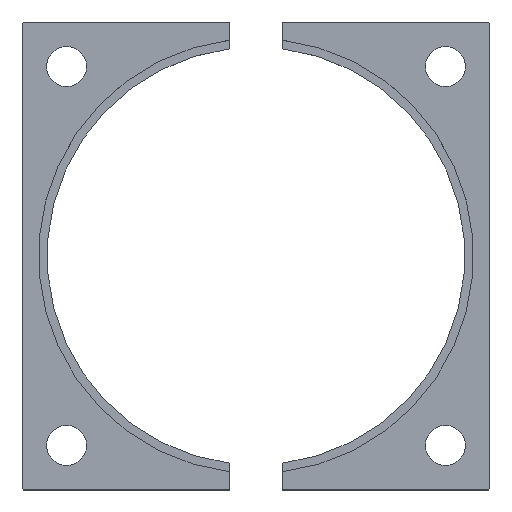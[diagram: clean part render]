
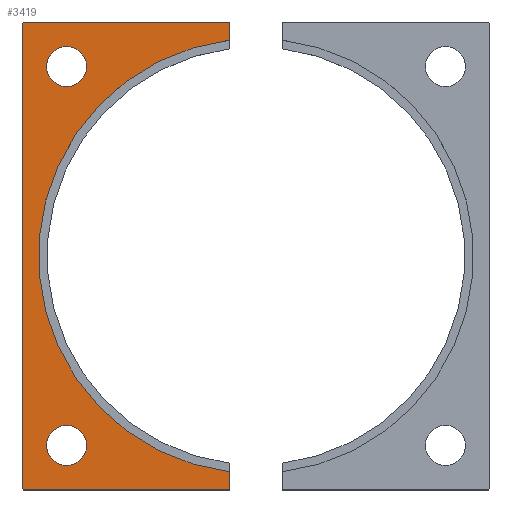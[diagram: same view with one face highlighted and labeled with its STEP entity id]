
A CAD part, top view. The second image highlights one B-rep face of the part: STEP entity #3419.
In plain terms, the highlighted planar face has unit normal (0, 0, 1).
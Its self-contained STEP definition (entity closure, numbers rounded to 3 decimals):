
#260=FACE_BOUND('',#580,.T.);
#261=FACE_BOUND('',#581,.T.);
#283=PLANE('',#3635);
#387=FACE_OUTER_BOUND('',#579,.T.);
#579=EDGE_LOOP('',(#2373,#2374,#2375,#2376,#2377,#2378,#2379,#2380));
#580=EDGE_LOOP('',(#2381));
#581=EDGE_LOOP('',(#2382));
#792=CIRCLE('',#3632,97.6);
#794=CIRCLE('',#3636,9.);
#795=CIRCLE('',#3637,9.);
#811=LINE('',#4375,#1155);
#812=LINE('',#4377,#1156);
#813=LINE('',#4379,#1157);
#814=LINE('',#4381,#1158);
#815=LINE('',#4383,#1159);
#816=LINE('',#4385,#1160);
#817=LINE('',#4386,#1161);
#1155=VECTOR('',#3775,10.);
#1156=VECTOR('',#3776,10.);
#1157=VECTOR('',#3777,10.);
#1158=VECTOR('',#3778,10.);
#1159=VECTOR('',#3779,10.);
#1160=VECTOR('',#3780,10.);
#1161=VECTOR('',#3781,10.);
#1496=VERTEX_POINT('',#4360);
#1498=VERTEX_POINT('',#4364);
#1501=VERTEX_POINT('',#4374);
#1502=VERTEX_POINT('',#4376);
#1503=VERTEX_POINT('',#4378);
#1504=VERTEX_POINT('',#4380);
#1505=VERTEX_POINT('',#4382);
#1506=VERTEX_POINT('',#4384);
#1507=VERTEX_POINT('',#4387);
#1508=VERTEX_POINT('',#4389);
#1846=EDGE_CURVE('',#1496,#1498,#792,.T.);
#1850=EDGE_CURVE('',#1501,#1498,#811,.T.);
#1851=EDGE_CURVE('',#1502,#1501,#812,.T.);
#1852=EDGE_CURVE('',#1503,#1502,#813,.T.);
#1853=EDGE_CURVE('',#1504,#1503,#814,.T.);
#1854=EDGE_CURVE('',#1505,#1504,#815,.T.);
#1855=EDGE_CURVE('',#1506,#1505,#816,.T.);
#1856=EDGE_CURVE('',#1496,#1506,#817,.T.);
#1857=EDGE_CURVE('',#1507,#1507,#794,.T.);
#1858=EDGE_CURVE('',#1508,#1508,#795,.T.);
#2373=ORIENTED_EDGE('',*,*,#1846,.T.);
#2374=ORIENTED_EDGE('',*,*,#1850,.F.);
#2375=ORIENTED_EDGE('',*,*,#1851,.F.);
#2376=ORIENTED_EDGE('',*,*,#1852,.F.);
#2377=ORIENTED_EDGE('',*,*,#1853,.F.);
#2378=ORIENTED_EDGE('',*,*,#1854,.F.);
#2379=ORIENTED_EDGE('',*,*,#1855,.F.);
#2380=ORIENTED_EDGE('',*,*,#1856,.F.);
#2381=ORIENTED_EDGE('',*,*,#1857,.T.);
#2382=ORIENTED_EDGE('',*,*,#1858,.T.);
#3419=ADVANCED_FACE('',(#387,#260,#261),#283,.T.);
#3632=AXIS2_PLACEMENT_3D('',#4366,#3765,#3766);
#3635=AXIS2_PLACEMENT_3D('',#4373,#3773,#3774);
#3636=AXIS2_PLACEMENT_3D('',#4388,#3782,#3783);
#3637=AXIS2_PLACEMENT_3D('',#4390,#3784,#3785);
#3765=DIRECTION('center_axis',(0.,0.,-1.));
#3766=DIRECTION('ref_axis',(-1.,0.,0.));
#3773=DIRECTION('center_axis',(0.,0.,1.));
#3774=DIRECTION('ref_axis',(1.,0.,0.));
#3775=DIRECTION('',(0.,-1.,0.));
#3776=DIRECTION('',(1.,0.,0.));
#3777=DIRECTION('',(0.707,0.707,0.));
#3778=DIRECTION('',(0.,1.,0.));
#3779=DIRECTION('',(-0.707,0.707,0.));
#3780=DIRECTION('',(-1.,0.,0.));
#3781=DIRECTION('',(0.,-1.,0.));
#3782=DIRECTION('center_axis',(0.,0.,-1.));
#3783=DIRECTION('ref_axis',(-1.,0.,0.));
#3784=DIRECTION('center_axis',(0.,0.,-1.));
#3785=DIRECTION('ref_axis',(-1.,0.,0.));
#4360=CARTESIAN_POINT('',(-12.,-96.859,12.));
#4364=CARTESIAN_POINT('',(-12.,96.859,12.));
#4366=CARTESIAN_POINT('Origin',(0.,0.,12.));
#4373=CARTESIAN_POINT('Origin',(-58.455,0.,
12.));
#4374=CARTESIAN_POINT('',(-12.,105.,12.));
#4375=CARTESIAN_POINT('',(-12.,-105.,12.));
#4376=CARTESIAN_POINT('',(-104.5,105.,12.));
#4377=CARTESIAN_POINT('',(-12.,105.,12.));
#4378=CARTESIAN_POINT('',(-105.,104.5,12.));
#4379=CARTESIAN_POINT('',(-104.5,105.,12.));
#4380=CARTESIAN_POINT('',(-105.,-104.5,12.));
#4381=CARTESIAN_POINT('',(-105.,104.5,12.));
#4382=CARTESIAN_POINT('',(-104.5,-105.,12.));
#4383=CARTESIAN_POINT('',(-105.,-104.5,12.));
#4384=CARTESIAN_POINT('',(-12.,-105.,12.));
#4385=CARTESIAN_POINT('',(-104.5,-105.,12.));
#4386=CARTESIAN_POINT('',(-12.,-105.,12.));
#4387=CARTESIAN_POINT('',(-76.,-85.,12.));
#4388=CARTESIAN_POINT('Origin',(-85.,-85.,12.));
#4389=CARTESIAN_POINT('',(-76.,85.,12.));
#4390=CARTESIAN_POINT('Origin',(-85.,85.,12.));
